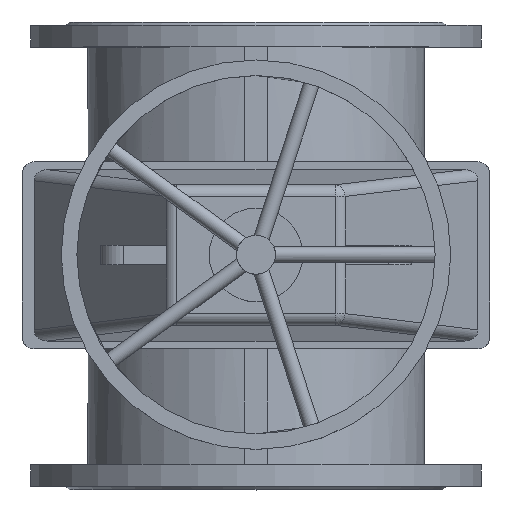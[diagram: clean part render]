
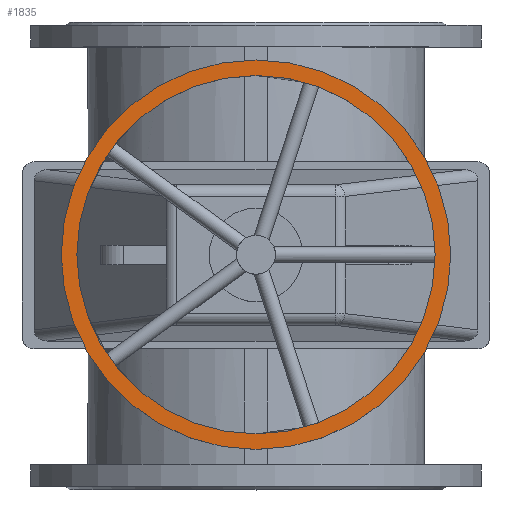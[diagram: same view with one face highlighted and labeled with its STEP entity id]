
A CAD part, top view. The second image highlights one B-rep face of the part: STEP entity #1835.
In plain terms, the highlighted planar face has unit normal (0, 0, 1).
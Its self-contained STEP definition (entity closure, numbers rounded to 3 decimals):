
#1835=ADVANCED_FACE('',(#4340,#4342),#4344,.T.);
#4340=FACE_BOUND('',#4341,.T.);
#4341=EDGE_LOOP('',(#5285));
#4342=FACE_BOUND('',#4343,.T.);
#4343=EDGE_LOOP('',(#5286));
#4344=PLANE('',#4345);
#4345=AXIS2_PLACEMENT_3D('',#4346,#4347,#4348);
#4346=CARTESIAN_POINT('',(0.,0.,950.5));
#4347=DIRECTION('',(0.,0.,1.));
#4348=DIRECTION('',(0.,-1.,0.));
#5285=ORIENTED_EDGE('',*,*,#5751,.T.);
#5286=ORIENTED_EDGE('',*,*,#5749,.T.);
#5749=EDGE_CURVE('',#6531,#6531,#6532,.F.);
#5751=EDGE_CURVE('',#6535,#6535,#6536,.T.);
#6531=VERTEX_POINT('',#10045);
#6532=CIRCLE('',#10046,230.);
#6535=VERTEX_POINT('',#10055);
#6536=CIRCLE('',#10056,250.);
#10045=CARTESIAN_POINT('',(0.,-230.,950.5));
#10046=AXIS2_PLACEMENT_3D('',#10047,#10048,#10049);
#10047=CARTESIAN_POINT('',(0.,0.,950.5));
#10048=DIRECTION('',(0.,0.,1.));
#10049=DIRECTION('',(0.,-1.,0.));
#10055=CARTESIAN_POINT('',(0.,-250.,950.5));
#10056=AXIS2_PLACEMENT_3D('',#10057,#10058,#10059);
#10057=CARTESIAN_POINT('',(0.,0.,950.5));
#10058=DIRECTION('',(0.,0.,1.));
#10059=DIRECTION('',(0.,-1.,0.));
